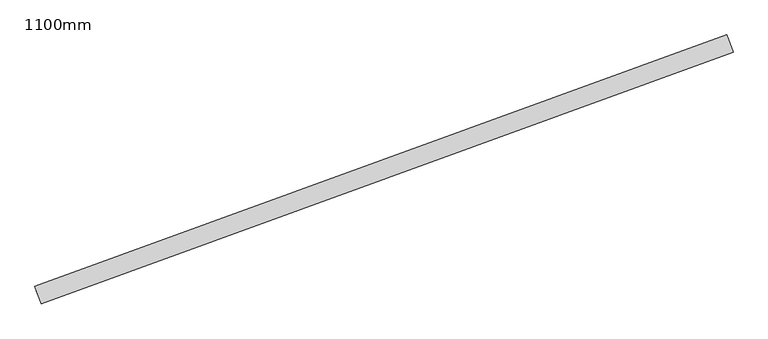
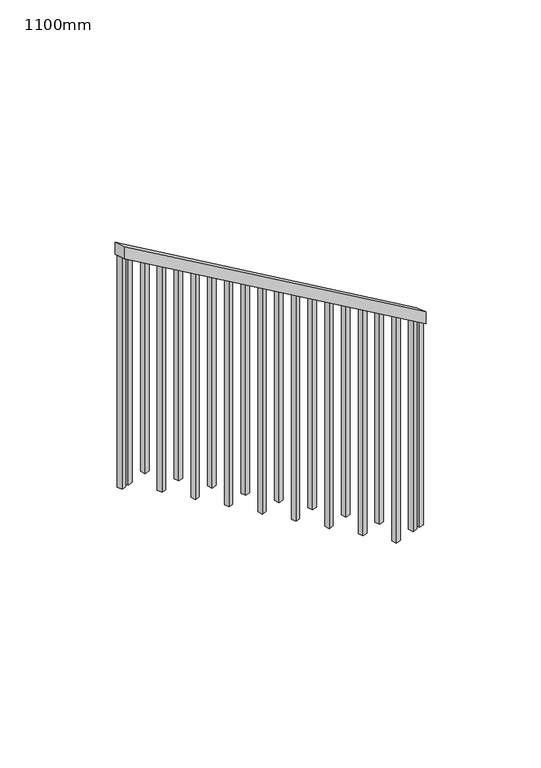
"""IFC4 building model written with IfcOpenShell, lengths in millimetres: railing geometry, 1100mm."""

from ifc_helpers import new_model, si_unit, frame, origin, place, context, project, spatial, polyline, outline, extrude, source, transform, mapped, element, save


def railing_1100mm_325c56d4(model_context):
    return source(origin(), model_context, "Body", "SweptSolid", [
        extrude(outline(polyline([(-35.3030303, -50.0), (0.0, 0.0), (2423.7994966, 0.0), (2388.4964663, -50.0), (-35.3030303, -50.0)])), frame((45130.803459, -28341.9346402, 5877.3333333), z_axis=(-0.34202014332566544, 0.9396926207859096, 0.0), x_axis=(-0.7676342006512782, -0.27939599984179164, 0.5767803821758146)), (0.0, 0.0, 1.0), 50.0),
        extrude(outline(polyline([(108.8257576, 0.0), (91.1742424, 25.0), (1255.292942, 25.0), (1255.292942, 0.0), (108.8257576, 0.0)])), frame((43329.36607, -28984.3020066, 7275.292942), z_axis=(-0.3420201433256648, 0.9396926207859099, 0.0), x_axis=(0.0, 0.0, -1.0)), (0.0, 0.0, 1.0), 25.0),
        extrude(outline(polyline([(108.8257575, 0.0), (91.1742424, 25.0000001), (1177.6262753, 25.0000001), (1177.6262753, 0.0), (108.8257575, 0.0)])), frame((43432.7322583, -28946.6797908, 7197.6262753), z_axis=(-0.3420201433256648, 0.9396926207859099, 0.0), x_axis=(0.0, 0.0, -1.0)), (0.0, 0.0, 1.0), 25.0),
        extrude(outline(polyline([(108.8257576, 0.0), (91.1742425, 25.0000001), (1255.292942, 25.0000001), (1255.292942, 0.0), (108.8257576, 0.0)])), frame((43536.0984466, -28909.057575, 7119.9596087), z_axis=(-0.3420201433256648, 0.9396926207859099, 0.0), x_axis=(0.0, 0.0, -1.0)), (0.0, 0.0, 1.0), 25.0),
        extrude(outline(polyline([(108.8257576, 0.0), (91.1742424, 25.0), (1177.6262753, 25.0), (1177.6262753, 0.0), (108.8257576, 0.0)])), frame((43639.4646348, -28871.4353593, 7042.292942), z_axis=(-0.3420201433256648, 0.9396926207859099, 0.0), x_axis=(0.0, 0.0, -1.0)), (0.0, 0.0, 1.0), 25.0),
        extrude(outline(polyline([(108.8257575, 0.0), (91.1742424, 25.0), (1255.292942, 25.0), (1255.292942, 0.0), (108.8257575, 0.0)])), frame((43742.8308231, -28833.8131435, 6964.6262753), z_axis=(-0.3420201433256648, 0.9396926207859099, 0.0), x_axis=(0.0, 0.0, -1.0)), (0.0, 0.0, 1.0), 25.0),
        extrude(outline(polyline([(108.8257576, 0.0), (91.1742425, 25.0), (1177.6262754, 25.0), (1177.6262754, 0.0), (108.8257576, 0.0)])), frame((43846.1970114, -28796.1909278, 6886.9596087), z_axis=(-0.3420201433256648, 0.9396926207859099, 0.0), x_axis=(0.0, 0.0, -1.0)), (0.0, 0.0, 1.0), 25.0),
        extrude(outline(polyline([(108.8257576, 0.0), (91.1742424, 25.0), (1255.292942, 25.0), (1255.292942, 0.0), (108.8257576, 0.0)])), frame((43949.5631997, -28758.568712, 6809.292942), z_axis=(-0.3420201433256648, 0.9396926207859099, 0.0), x_axis=(0.0, 0.0, -1.0)), (0.0, 0.0, 1.0), 25.0),
        extrude(outline(polyline([(108.8257575, 0.0), (91.1742424, 25.0), (1177.6262753, 25.0), (1177.6262753, 0.0), (108.8257575, 0.0)])), frame((44052.929388, -28720.9464962, 6731.6262753), z_axis=(-0.3420201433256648, 0.9396926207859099, 0.0), x_axis=(0.0, 0.0, -1.0)), (0.0, 0.0, 1.0), 25.0),
        extrude(outline(polyline([(108.8257576, 0.0), (91.1742425, 25.0), (1255.292942, 25.0), (1255.292942, 0.0), (108.8257576, 0.0)])), frame((44156.2955763, -28683.3242805, 6653.9596087), z_axis=(-0.3420201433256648, 0.9396926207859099, 0.0), x_axis=(0.0, 0.0, -1.0)), (0.0, 0.0, 1.0), 25.0),
        extrude(outline(polyline([(108.8257576, 0.0), (91.1742424, 25.0000001), (1177.6262753, 25.0000001), (1177.6262753, 0.0), (108.8257576, 0.0)])), frame((44259.6617646, -28645.7020647, 6576.292942), z_axis=(-0.3420201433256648, 0.9396926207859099, 0.0), x_axis=(0.0, 0.0, -1.0)), (0.0, 0.0, 1.0), 25.0),
        extrude(outline(polyline([(108.8257575, 0.0), (91.1742424, 25.0), (1255.292942, 25.0), (1255.292942, 0.0), (108.8257575, 0.0)])), frame((44363.0279528, -28608.0798489, 6498.6262753), z_axis=(-0.3420201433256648, 0.9396926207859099, 0.0), x_axis=(0.0, 0.0, -1.0)), (0.0, 0.0, 1.0), 25.0),
        extrude(outline(polyline([(108.8257576, 0.0), (91.1742425, 25.0), (1177.6262754, 25.0), (1177.6262754, 0.0), (108.8257576, 0.0)])), frame((44466.3941411, -28570.4576332, 6420.9596087), z_axis=(-0.3420201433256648, 0.9396926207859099, 0.0), x_axis=(0.0, 0.0, -1.0)), (0.0, 0.0, 1.0), 25.0),
        extrude(outline(polyline([(108.8257576, 0.0), (91.1742424, 25.0), (1255.292942, 25.0), (1255.292942, 0.0), (108.8257576, 0.0)])), frame((44569.7603294, -28532.8354174, 6343.292942), z_axis=(-0.3420201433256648, 0.9396926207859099, 0.0), x_axis=(0.0, 0.0, -1.0)), (0.0, 0.0, 1.0), 25.0),
        extrude(outline(polyline([(108.8257575, 0.0), (91.1742424, 25.0), (1177.6262753, 25.0), (1177.6262753, 0.0), (108.8257575, 0.0)])), frame((44673.1265177, -28495.2132016, 6265.6262753), z_axis=(-0.3420201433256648, 0.9396926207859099, 0.0), x_axis=(0.0, 0.0, -1.0)), (0.0, 0.0, 1.0), 25.0),
        extrude(outline(polyline([(108.8257576, 0.0), (91.1742425, 25.0), (1255.292942, 25.0), (1255.292942, 0.0), (108.8257576, 0.0)])), frame((44776.492706, -28457.5909859, 6187.9596087), z_axis=(-0.3420201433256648, 0.9396926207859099, 0.0), x_axis=(0.0, 0.0, -1.0)), (0.0, 0.0, 1.0), 25.0),
        extrude(outline(polyline([(108.8257576, 0.0), (91.1742424, 25.0), (1177.6262753, 25.0), (1177.6262753, 0.0), (108.8257576, 0.0)])), frame((44879.8588943, -28419.9687701, 6110.292942), z_axis=(-0.3420201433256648, 0.9396926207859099, 0.0), x_axis=(0.0, 0.0, -1.0)), (0.0, 0.0, 1.0), 25.0),
        extrude(outline(polyline([(108.8257575, 0.0), (91.1742424, 25.0000001), (1255.292942, 25.0000001), (1255.292942, 0.0), (108.8257575, 0.0)])), frame((44983.2250826, -28382.3465543, 6032.6262753), z_axis=(-0.3420201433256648, 0.9396926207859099, 0.0), x_axis=(0.0, 0.0, -1.0)), (0.0, 0.0, 1.0), 25.0),
        extrude(outline(polyline([(108.8257576, 0.0), (91.1742425, 25.0), (1177.6262754, 25.0), (1177.6262754, 0.0), (108.8257576, 0.0)])), frame((45086.5912708, -28344.7243386, 5954.9596087), z_axis=(-0.3420201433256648, 0.9396926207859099, 0.0), x_axis=(0.0, 0.0, -1.0)), (0.0, 0.0, 1.0), 25.0),
        extrude(outline(polyline([(108.8257576, 0.0), (91.1742425, 25.0), (1285.3005178, 25.0), (1285.3005178, 0.0), (108.8257576, 0.0)])), frame((43289.4291336, -28998.8378627, 7305.3005178), z_axis=(-0.3420201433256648, 0.9396926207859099, 0.0), x_axis=(0.0, 0.0, -1.0)), (0.0, 0.0, 1.0), 25.0),
        extrude(outline(polyline([(108.8257576, 0.0), (91.1742424, 25.0), (1147.6186996, 25.0), (1147.6186996, 0.0), (108.8257576, 0.0)])), frame((45126.5282072, -28330.1884825, 5924.9520329), z_axis=(-0.3420201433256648, 0.9396926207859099, 0.0), x_axis=(0.0, 0.0, -1.0)), (0.0, 0.0, 1.0), 25.0),
    ])


if __name__ == "__main__":
    model = new_model("IFC4")
    model_context = context("Model", 3, world=origin())
    ifc_project = project(units=[si_unit("LENGTHUNIT", "METRE", prefix="MILLI")], contexts=[model_context])
    site = spatial("IfcSite", under=ifc_project)
    building = spatial("IfcBuilding", under=site)
    placement = place(None, origin())
    railing_1100mm_shape = railing_1100mm_325c56d4(model_context)
    element("IfcRailing", 1, ObjectType="1100mm", at=placement, inside=building, context=model_context, shape_type="MappedRepresentation", body=[
        mapped(railing_1100mm_shape, transform((0.0, 0.0, 0.0), x_axis=(1.0, 0.0, 0.0), y_axis=(0.0, 1.0, 0.0), z_axis=(0.0, 0.0, 1.0))),
    ])
    save(model, "model.ifc")
